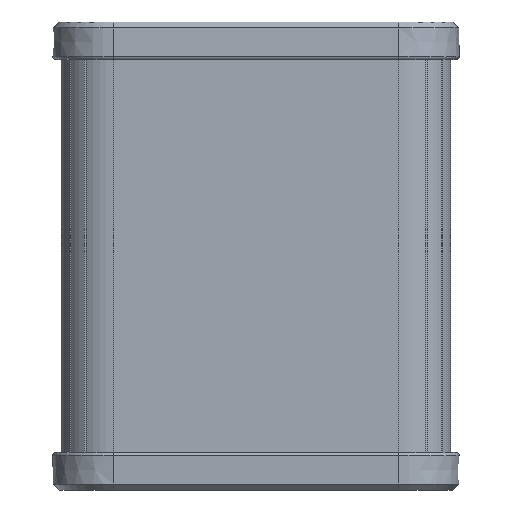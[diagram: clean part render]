
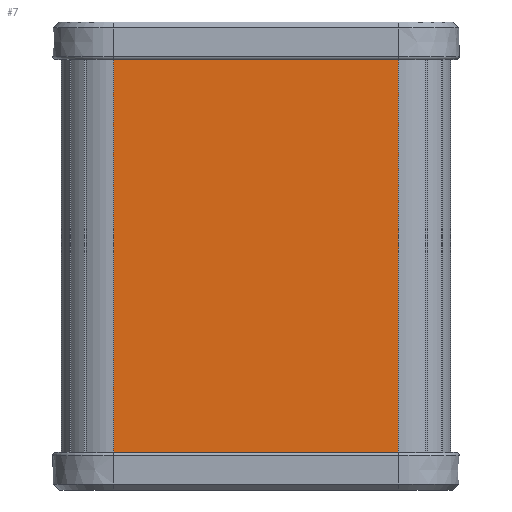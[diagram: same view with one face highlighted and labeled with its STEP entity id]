
A CAD part, front view. The second image highlights one B-rep face of the part: STEP entity #7.
In plain terms, the highlighted planar face has unit normal (0, -1, 0).
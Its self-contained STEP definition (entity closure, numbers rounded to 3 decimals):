
#7 = ADVANCED_FACE ( 'NONE', ( #5760 ), #2258, .T. ) ;
#16 = DIRECTION ( 'NONE',  ( 0., 0., -1. ) ) ;
#90 = LINE ( 'NONE', #6332, #7164 ) ;
#827 = ORIENTED_EDGE ( 'NONE', *, *, #5846, .T. ) ;
#1059 = AXIS2_PLACEMENT_3D ( 'NONE', #1868, #4019, #16 ) ;
#1222 = CARTESIAN_POINT ( 'NONE',  ( 47.5, -17.5, 75. ) ) ;
#1239 = EDGE_CURVE ( 'NONE', #3756, #4976, #2975, .T. ) ;
#1313 = CARTESIAN_POINT ( 'NONE',  ( 47.5, -17.5, -75. ) ) ;
#1410 = LINE ( 'NONE', #3710, #7233 ) ;
#1513 = CARTESIAN_POINT ( 'NONE',  ( 47.5, -17.5, -75. ) ) ;
#1868 = CARTESIAN_POINT ( 'NONE',  ( -47.5, -17.5, -75. ) ) ;
#2258 = PLANE ( 'NONE',  #1059 ) ;
#2908 = CARTESIAN_POINT ( 'NONE',  ( -47.5, -17.5, 75. ) ) ;
#2975 = LINE ( 'NONE', #5280, #4125 ) ;
#3503 = VERTEX_POINT ( 'NONE', #6461 ) ;
#3518 = ORIENTED_EDGE ( 'NONE', *, *, #3583, .F. ) ;
#3569 = LINE ( 'NONE', #1313, #4632 ) ;
#3583 = EDGE_CURVE ( 'NONE', #3503, #3756, #1410, .T. ) ;
#3610 = DIRECTION ( 'NONE',  ( 0., 0., 1. ) ) ;
#3710 = CARTESIAN_POINT ( 'NONE',  ( -47.5, -17.5, -75. ) ) ;
#3756 = VERTEX_POINT ( 'NONE', #2908 ) ;
#4019 = DIRECTION ( 'NONE',  ( 0., -1., 0. ) ) ;
#4125 = VECTOR ( 'NONE', #5318, 1000. ) ;
#4632 = VECTOR ( 'NONE', #3610, 1000. ) ;
#4662 = ORIENTED_EDGE ( 'NONE', *, *, #7213, .T. ) ;
#4976 = VERTEX_POINT ( 'NONE', #1222 ) ;
#5280 = CARTESIAN_POINT ( 'NONE',  ( -47.5, -17.5, 75. ) ) ;
#5318 = DIRECTION ( 'NONE',  ( 1., 0., 0. ) ) ;
#5629 = ORIENTED_EDGE ( 'NONE', *, *, #1239, .F. ) ;
#5760 = FACE_OUTER_BOUND ( 'NONE', #6518, .T. ) ;
#5846 = EDGE_CURVE ( 'NONE', #3503, #6875, #90, .T. ) ;
#6055 = DIRECTION ( 'NONE',  ( 0., 0., 1. ) ) ;
#6332 = CARTESIAN_POINT ( 'NONE',  ( -47.5, -17.5, -75. ) ) ;
#6461 = CARTESIAN_POINT ( 'NONE',  ( -47.5, -17.5, -75. ) ) ;
#6518 = EDGE_LOOP ( 'NONE', ( #5629, #3518, #827, #4662 ) ) ;
#6875 = VERTEX_POINT ( 'NONE', #1513 ) ;
#6928 = DIRECTION ( 'NONE',  ( 1., 0., 0. ) ) ;
#7164 = VECTOR ( 'NONE', #6928, 1000. ) ;
#7213 = EDGE_CURVE ( 'NONE', #6875, #4976, #3569, .T. ) ;
#7233 = VECTOR ( 'NONE', #6055, 1000. ) ;
